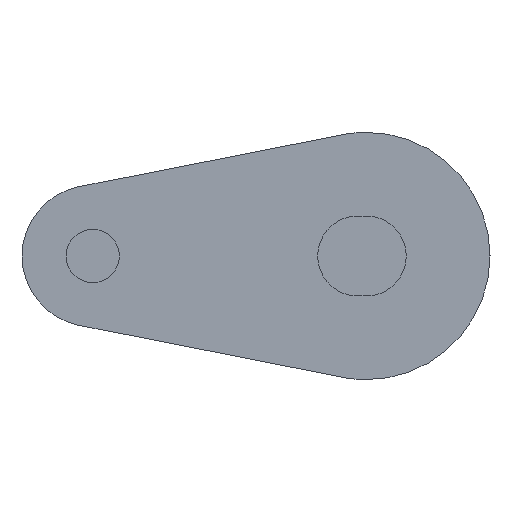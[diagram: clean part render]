
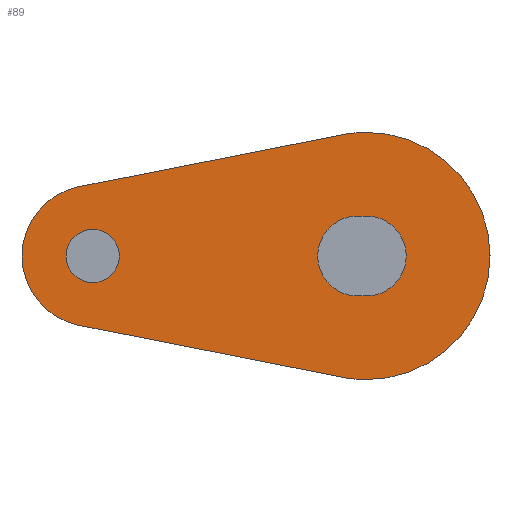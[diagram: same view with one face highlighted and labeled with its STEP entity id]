
A CAD part, left-side view. The second image highlights one B-rep face of the part: STEP entity #89.
In plain terms, the highlighted planar face has unit normal (-1, 0, 0).
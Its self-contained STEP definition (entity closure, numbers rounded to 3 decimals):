
#7 = DIRECTION ( 'NONE',  ( 0., 1., 0. ) ) ;
#10 = DIRECTION ( 'NONE',  ( 0., 0., -1. ) ) ;
#14 = CARTESIAN_POINT ( 'NONE',  ( -479.5, 0.5, -2.26 ) ) ;
#18 = DIRECTION ( 'NONE',  ( 1., 0., 0. ) ) ;
#20 = DIRECTION ( 'NONE',  ( 0., -0.981, 0.194 ) ) ;
#21 = CARTESIAN_POINT ( 'NONE',  ( -479.5, 16.274, 3.924 ) ) ;
#38 = CARTESIAN_POINT ( 'NONE',  ( -479.5, 16.274, -3.924 ) ) ;
#39 = CARTESIAN_POINT ( 'NONE',  ( -479.5, 15.5, 1.51 ) ) ;
#40 = CARTESIAN_POINT ( 'NONE',  ( -479.5, 0.5, -2.26 ) ) ;
#50 = DIRECTION ( 'NONE',  ( 0., 0., -1. ) ) ;
#51 = DIRECTION ( 'NONE',  ( 1., 0., 0. ) ) ;
#52 = CARTESIAN_POINT ( 'NONE',  ( -479.5, 0., 0. ) ) ;
#53 = DIRECTION ( 'NONE',  ( 0., 0., -1. ) ) ;
#54 = DIRECTION ( 'NONE',  ( 1., 0., 0. ) ) ;
#56 = CARTESIAN_POINT ( 'NONE',  ( -479.5, 0., 0. ) ) ;
#89 = ADVANCED_FACE ( 'NONE', ( #319, #315, #313 ), #915, .T. ) ;
#105 = CARTESIAN_POINT ( 'NONE',  ( -479.5, 0., 0. ) ) ;
#116 = DIRECTION ( 'NONE',  ( 0., 0., -1. ) ) ;
#117 = DIRECTION ( 'NONE',  ( 1., 0., 0. ) ) ;
#118 = CARTESIAN_POINT ( 'NONE',  ( -479.5, 15.5, 0. ) ) ;
#119 = DIRECTION ( 'NONE',  ( 0., 0., -1. ) ) ;
#122 = DIRECTION ( 'NONE',  ( 1., 0., 0. ) ) ;
#129 = DIRECTION ( 'NONE',  ( 0., 0.981, 0.194 ) ) ;
#134 = CARTESIAN_POINT ( 'NONE',  ( -479.5, 1.355, -6.868 ) ) ;
#143 = CARTESIAN_POINT ( 'NONE',  ( -479.5, 0.5, 0. ) ) ;
#199 = CIRCLE ( 'NONE', #710, 2.26 ) ;
#204 = CIRCLE ( 'NONE', #670, 7. ) ;
#212 = CIRCLE ( 'NONE', #673, 4. ) ;
#219 = LINE ( 'NONE', #14, #253 ) ;
#221 = CIRCLE ( 'NONE', #704, 1.51 ) ;
#243 = VECTOR ( 'NONE', #129, 1000. ) ;
#244 = LINE ( 'NONE', #21, #245 ) ;
#245 = VECTOR ( 'NONE', #20, 1000. ) ;
#251 = LINE ( 'NONE', #134, #243 ) ;
#253 = VECTOR ( 'NONE', #7, 1000. ) ;
#257 = VECTOR ( 'NONE', #1047, 1000. ) ;
#265 = LINE ( 'NONE', #1053, #257 ) ;
#313 = FACE_OUTER_BOUND ( 'NONE', #354, .T. ) ;
#315 = FACE_BOUND ( 'NONE', #357, .T. ) ;
#318 = CIRCLE ( 'NONE', #705, 1.51 ) ;
#319 = FACE_BOUND ( 'NONE', #353, .T. ) ;
#353 = EDGE_LOOP ( 'NONE', ( #510, #511, #512, #574 ) ) ;
#354 = EDGE_LOOP ( 'NONE', ( #507, #522, #521, #506, #583, #515 ) ) ;
#357 = EDGE_LOOP ( 'NONE', ( #444, #443 ) ) ;
#359 = CIRCLE ( 'NONE', #725, 2.26 ) ;
#362 = CIRCLE ( 'NONE', #711, 7. ) ;
#443 = ORIENTED_EDGE ( 'NONE', *, *, #818, .T. ) ;
#444 = ORIENTED_EDGE ( 'NONE', *, *, #761, .T. ) ;
#506 = ORIENTED_EDGE ( 'NONE', *, *, #726, .F. ) ;
#507 = ORIENTED_EDGE ( 'NONE', *, *, #700, .F. ) ;
#510 = ORIENTED_EDGE ( 'NONE', *, *, #756, .T. ) ;
#511 = ORIENTED_EDGE ( 'NONE', *, *, #696, .T. ) ;
#512 = ORIENTED_EDGE ( 'NONE', *, *, #732, .T. ) ;
#515 = ORIENTED_EDGE ( 'NONE', *, *, #768, .F. ) ;
#521 = ORIENTED_EDGE ( 'NONE', *, *, #803, .F. ) ;
#522 = ORIENTED_EDGE ( 'NONE', *, *, #787, .F. ) ;
#574 = ORIENTED_EDGE ( 'NONE', *, *, #776, .T. ) ;
#578 = CIRCLE ( 'NONE', #793, 7. ) ;
#583 = ORIENTED_EDGE ( 'NONE', *, *, #766, .F. ) ;
#588 = CARTESIAN_POINT ( 'NONE',  ( -479.5, 0., 0. ) ) ;
#600 = CARTESIAN_POINT ( 'NONE',  ( -479.5, 15.5, 0. ) ) ;
#601 = DIRECTION ( 'NONE',  ( 0., 0., -1. ) ) ;
#602 = DIRECTION ( 'NONE',  ( 1., 0., 0. ) ) ;
#604 = CARTESIAN_POINT ( 'NONE',  ( -479.5, 1.355, 6.868 ) ) ;
#606 = CARTESIAN_POINT ( 'NONE',  ( -479.5, 0., 7. ) ) ;
#608 = CARTESIAN_POINT ( 'NONE',  ( -479.5, 0., -7. ) ) ;
#610 = CARTESIAN_POINT ( 'NONE',  ( -479.5, 0., -2.26 ) ) ;
#612 = DIRECTION ( 'NONE',  ( 0., 0., -1. ) ) ;
#614 = CARTESIAN_POINT ( 'NONE',  ( -479.5, 1.355, -6.868 ) ) ;
#615 = DIRECTION ( 'NONE',  ( 1., 0., 0. ) ) ;
#652 = DIRECTION ( 'NONE',  ( 0., 0., -1. ) ) ;
#654 = DIRECTION ( 'NONE',  ( 1., 0., 0. ) ) ;
#658 = CARTESIAN_POINT ( 'NONE',  ( -479.5, 15.5, 0. ) ) ;
#670 = AXIS2_PLACEMENT_3D ( 'NONE', #52, #51, #50 ) ;
#673 = AXIS2_PLACEMENT_3D ( 'NONE', #658, #654, #652 ) ;
#696 = EDGE_CURVE ( 'NONE', #996, #935, #265, .T. ) ;
#700 = EDGE_CURVE ( 'NONE', #1036, #971, #212, .T. ) ;
#704 = AXIS2_PLACEMENT_3D ( 'NONE', #118, #117, #116 ) ;
#705 = AXIS2_PLACEMENT_3D ( 'NONE', #600, #615, #612 ) ;
#710 = AXIS2_PLACEMENT_3D ( 'NONE', #56, #54, #53 ) ;
#711 = AXIS2_PLACEMENT_3D ( 'NONE', #105, #18, #10 ) ;
#725 = AXIS2_PLACEMENT_3D ( 'NONE', #143, #122, #119 ) ;
#726 = EDGE_CURVE ( 'NONE', #948, #945, #204, .T. ) ;
#732 = EDGE_CURVE ( 'NONE', #935, #933, #199, .T. ) ;
#735 = AXIS2_PLACEMENT_3D ( 'NONE', #911, #910, #909 ) ;
#756 = EDGE_CURVE ( 'NONE', #1005, #996, #359, .T. ) ;
#761 = EDGE_CURVE ( 'NONE', #969, #1035, #221, .T. ) ;
#766 = EDGE_CURVE ( 'NONE', #954, #948, #362, .T. ) ;
#768 = EDGE_CURVE ( 'NONE', #971, #954, #244, .T. ) ;
#776 = EDGE_CURVE ( 'NONE', #933, #1005, #219, .T. ) ;
#787 = EDGE_CURVE ( 'NONE', #942, #1036, #251, .T. ) ;
#793 = AXIS2_PLACEMENT_3D ( 'NONE', #588, #602, #601 ) ;
#803 = EDGE_CURVE ( 'NONE', #945, #942, #578, .T. ) ;
#818 = EDGE_CURVE ( 'NONE', #1035, #969, #318, .T. ) ;
#838 = CARTESIAN_POINT ( 'NONE',  ( -479.5, 0.5, 2.26 ) ) ;
#840 = CARTESIAN_POINT ( 'NONE',  ( -479.5, 15.5, -1.51 ) ) ;
#853 = CARTESIAN_POINT ( 'NONE',  ( -479.5, 16.274, 3.924 ) ) ;
#909 = DIRECTION ( 'NONE',  ( 0., 0., -1. ) ) ;
#910 = DIRECTION ( 'NONE',  ( -1., 0., 0. ) ) ;
#911 = CARTESIAN_POINT ( 'NONE',  ( -479.5, 15.5, 0. ) ) ;
#915 = PLANE ( 'NONE',  #735 ) ;
#933 = VERTEX_POINT ( 'NONE', #610 ) ;
#935 = VERTEX_POINT ( 'NONE', #1070 ) ;
#942 = VERTEX_POINT ( 'NONE', #614 ) ;
#945 = VERTEX_POINT ( 'NONE', #608 ) ;
#948 = VERTEX_POINT ( 'NONE', #606 ) ;
#954 = VERTEX_POINT ( 'NONE', #604 ) ;
#969 = VERTEX_POINT ( 'NONE', #840 ) ;
#971 = VERTEX_POINT ( 'NONE', #853 ) ;
#996 = VERTEX_POINT ( 'NONE', #838 ) ;
#1005 = VERTEX_POINT ( 'NONE', #40 ) ;
#1035 = VERTEX_POINT ( 'NONE', #39 ) ;
#1036 = VERTEX_POINT ( 'NONE', #38 ) ;
#1047 = DIRECTION ( 'NONE',  ( 0., -1., 0. ) ) ;
#1053 = CARTESIAN_POINT ( 'NONE',  ( -479.5, 0.5, 2.26 ) ) ;
#1070 = CARTESIAN_POINT ( 'NONE',  ( -479.5, 0., 2.26 ) ) ;
